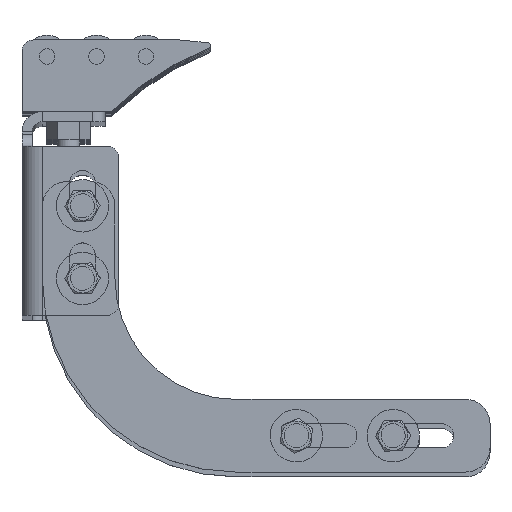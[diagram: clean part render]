
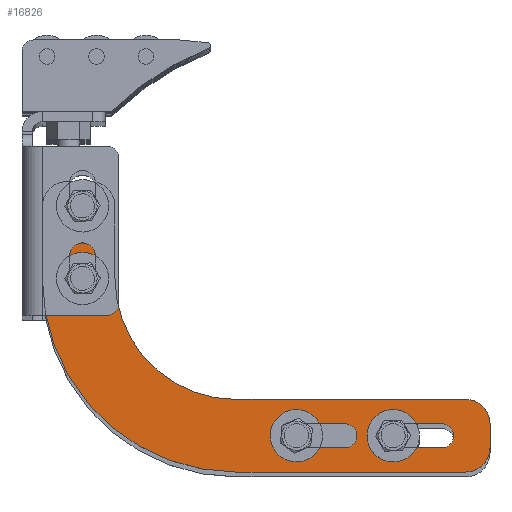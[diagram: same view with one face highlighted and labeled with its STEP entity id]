
A CAD part, top view. The second image highlights one B-rep face of the part: STEP entity #16826.
In plain terms, the highlighted planar face has unit normal (0, 0, 1) as drawn and (0, 0, -1) by its records, which use the part's own axes.
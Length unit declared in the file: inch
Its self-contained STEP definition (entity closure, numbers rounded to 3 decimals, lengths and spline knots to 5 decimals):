
#16259=DIRECTION('',(0.,-1.,0.));
#16260=VECTOR('',#16259,0.75);
#16261=CARTESIAN_POINT('',(0.,2.75,-0.25));
#16262=LINE('',#16261,#16260);
#16263=CARTESIAN_POINT('',(-0.25,2.75,-0.25));
#16264=DIRECTION('',(0.,0.,-1.));
#16265=DIRECTION('',(0.,1.,0.));
#16266=AXIS2_PLACEMENT_3D('',#16263,#16264,#16265);
#16268=DIRECTION('',(1.,0.,0.));
#16269=VECTOR('',#16268,0.25);
#16270=CARTESIAN_POINT('',(-0.5,3.,-0.25));
#16271=LINE('',#16270,#16269);
#16272=CARTESIAN_POINT('',(-0.5,2.75,-0.25));
#16273=DIRECTION('',(0.,0.,-1.));
#16274=DIRECTION('',(-1.,0.,0.));
#16275=AXIS2_PLACEMENT_3D('',#16272,#16273,#16274);
#16277=DIRECTION('',(0.,1.,0.));
#16278=VECTOR('',#16277,0.75);
#16279=CARTESIAN_POINT('',(-0.75,2.,-0.25));
#16280=LINE('',#16279,#16278);
#16281=CARTESIAN_POINT('',(-2.,2.,-0.25));
#16282=DIRECTION('',(0.,0.,1.));
#16283=DIRECTION('',(0.,-1.,0.));
#16284=AXIS2_PLACEMENT_3D('',#16281,#16282,#16283);
#16286=DIRECTION('',(1.,0.,0.));
#16287=VECTOR('',#16286,2.375);
#16288=CARTESIAN_POINT('',(-4.375,0.75,-0.25));
#16289=LINE('',#16288,#16287);
#16290=CARTESIAN_POINT('',(-4.375,0.5,-0.25));
#16291=DIRECTION('',(0.,0.,-1.));
#16292=DIRECTION('',(-1.,0.,0.));
#16293=AXIS2_PLACEMENT_3D('',#16290,#16291,#16292);
#16295=DIRECTION('',(0.,1.,0.));
#16296=VECTOR('',#16295,0.25);
#16297=CARTESIAN_POINT('',(-4.625,0.25,-0.25));
#16298=LINE('',#16297,#16296);
#16299=CARTESIAN_POINT('',(-4.375,0.25,-0.25));
#16300=DIRECTION('',(0.,0.,-1.));
#16301=DIRECTION('',(0.,-1.,0.));
#16302=AXIS2_PLACEMENT_3D('',#16299,#16300,#16301);
#16304=DIRECTION('',(-1.,0.,0.));
#16305=VECTOR('',#16304,2.375);
#16306=CARTESIAN_POINT('',(-2.,0.,-0.25));
#16307=LINE('',#16306,#16305);
#16308=CARTESIAN_POINT('',(-2.,2.,-0.25));
#16309=DIRECTION('',(0.,0.,-1.));
#16310=DIRECTION('',(1.,0.,0.));
#16311=AXIS2_PLACEMENT_3D('',#16308,#16309,#16310);
#16313=CARTESIAN_POINT('',(-0.4145,2.,-0.25));
#16314=DIRECTION('',(0.,0.,1.));
#16315=DIRECTION('',(1.,0.,0.));
#16316=AXIS2_PLACEMENT_3D('',#16313,#16314,#16315);
#16318=CARTESIAN_POINT('',(-0.4145,2.,-0.25));
#16319=DIRECTION('',(0.,0.,1.));
#16320=DIRECTION('',(-1.,0.,0.));
#16321=AXIS2_PLACEMENT_3D('',#16318,#16319,#16320);
#16323=CARTESIAN_POINT('',(-0.4145,2.75,-0.25));
#16324=DIRECTION('',(0.,0.,1.));
#16325=DIRECTION('',(1.,0.,0.));
#16326=AXIS2_PLACEMENT_3D('',#16323,#16324,#16325);
#16328=CARTESIAN_POINT('',(-0.4145,2.75,-0.25));
#16329=DIRECTION('',(0.,0.,1.));
#16330=DIRECTION('',(-1.,0.,0.));
#16331=AXIS2_PLACEMENT_3D('',#16328,#16329,#16330);
#16333=CARTESIAN_POINT('',(-2.625,0.375,-0.25));
#16334=DIRECTION('',(0.,0.,1.));
#16335=DIRECTION('',(1.,0.,0.));
#16336=AXIS2_PLACEMENT_3D('',#16333,#16334,#16335);
#16338=CARTESIAN_POINT('',(-2.625,0.375,-0.25));
#16339=DIRECTION('',(0.,0.,1.));
#16340=DIRECTION('',(0.,-1.,0.));
#16341=AXIS2_PLACEMENT_3D('',#16338,#16339,#16340);
#16343=CARTESIAN_POINT('',(-3.125,0.375,-0.25));
#16344=DIRECTION('',(0.,0.,1.));
#16345=DIRECTION('',(-1.,0.,0.));
#16346=AXIS2_PLACEMENT_3D('',#16343,#16344,#16345);
#16348=CARTESIAN_POINT('',(-3.125,0.375,-0.25));
#16349=DIRECTION('',(0.,0.,1.));
#16350=DIRECTION('',(0.,1.,0.));
#16351=AXIS2_PLACEMENT_3D('',#16348,#16349,#16350);
#16353=CARTESIAN_POINT('',(-3.625,0.375,-0.25));
#16354=DIRECTION('',(0.,0.,1.));
#16355=DIRECTION('',(1.,0.,0.));
#16356=AXIS2_PLACEMENT_3D('',#16353,#16354,#16355);
#16358=CARTESIAN_POINT('',(-3.625,0.375,-0.25));
#16359=DIRECTION('',(0.,0.,1.));
#16360=DIRECTION('',(0.,-1.,0.));
#16361=AXIS2_PLACEMENT_3D('',#16358,#16359,#16360);
#16363=CARTESIAN_POINT('',(-4.125,0.375,-0.25));
#16364=DIRECTION('',(0.,0.,1.));
#16365=DIRECTION('',(-1.,0.,0.));
#16366=AXIS2_PLACEMENT_3D('',#16363,#16364,#16365);
#16368=CARTESIAN_POINT('',(-4.125,0.375,-0.25));
#16369=DIRECTION('',(0.,0.,1.));
#16370=DIRECTION('',(0.,1.,0.));
#16371=AXIS2_PLACEMENT_3D('',#16368,#16369,#16370);
#16567=DIRECTION('',(1.,0.,0.));
#16568=VECTOR('',#16567,0.5);
#16569=CARTESIAN_POINT('',(-3.125,0.5,-0.25));
#16570=LINE('',#16569,#16568);
#16583=DIRECTION('',(-1.,0.,0.));
#16584=VECTOR('',#16583,0.5);
#16585=CARTESIAN_POINT('',(-2.625,0.25,-0.25));
#16586=LINE('',#16585,#16584);
#16595=DIRECTION('',(1.,0.,0.));
#16596=VECTOR('',#16595,0.5);
#16597=CARTESIAN_POINT('',(-4.125,0.5,-0.25));
#16598=LINE('',#16597,#16596);
#16611=DIRECTION('',(-1.,0.,0.));
#16612=VECTOR('',#16611,0.5);
#16613=CARTESIAN_POINT('',(-3.625,0.25,-0.25));
#16614=LINE('',#16613,#16612);
#16615=CARTESIAN_POINT('',(-0.51293,2.,-0.25));
#16616=CARTESIAN_POINT('',(-0.31607,2.,-0.25));
#16617=VERTEX_POINT('',#16615);
#16618=VERTEX_POINT('',#16616);
#16619=CARTESIAN_POINT('',(-4.125,0.5,-0.25));
#16620=CARTESIAN_POINT('',(-3.625,0.5,-0.25));
#16621=VERTEX_POINT('',#16619);
#16622=VERTEX_POINT('',#16620);
#16624=CARTESIAN_POINT('',(-2.,0.,-0.25));
#16626=VERTEX_POINT('',#16624);
#16628=CARTESIAN_POINT('',(-3.125,0.25,-0.25));
#16630=VERTEX_POINT('',#16628);
#16631=CARTESIAN_POINT('',(-0.75,2.75,-0.25));
#16633=VERTEX_POINT('',#16631);
#16635=CARTESIAN_POINT('',(-4.375,0.,-0.25));
#16636=CARTESIAN_POINT('',(-4.625,0.25,-0.25));
#16637=VERTEX_POINT('',#16635);
#16638=VERTEX_POINT('',#16636);
#16640=CARTESIAN_POINT('',(-0.75,2.,-0.25));
#16642=VERTEX_POINT('',#16640);
#16644=CARTESIAN_POINT('',(-2.5,0.375,-0.25));
#16646=VERTEX_POINT('',#16644);
#16658=CARTESIAN_POINT('',(-4.375,0.75,-0.25));
#16660=VERTEX_POINT('',#16658);
#16661=CARTESIAN_POINT('',(-3.125,0.5,-0.25));
#16663=VERTEX_POINT('',#16661);
#16666=CARTESIAN_POINT('',(-0.5,3.,-0.25));
#16668=VERTEX_POINT('',#16666);
#16669=CARTESIAN_POINT('',(-0.51293,2.75,-0.25));
#16670=CARTESIAN_POINT('',(-0.31607,2.75,-0.25));
#16671=VERTEX_POINT('',#16669);
#16672=VERTEX_POINT('',#16670);
#16676=CARTESIAN_POINT('',(-4.125,0.25,-0.25));
#16678=VERTEX_POINT('',#16676);
#16685=CARTESIAN_POINT('',(-4.625,0.5,-0.25));
#16686=VERTEX_POINT('',#16685);
#16687=CARTESIAN_POINT('',(-2.625,0.25,-0.25));
#16688=VERTEX_POINT('',#16687);
#16693=CARTESIAN_POINT('',(0.,2.,-0.25));
#16695=VERTEX_POINT('',#16693);
#16701=CARTESIAN_POINT('',(-4.25,0.375,-0.25));
#16702=VERTEX_POINT('',#16701);
#16707=CARTESIAN_POINT('',(-3.625,0.25,-0.25));
#16708=VERTEX_POINT('',#16707);
#16709=CARTESIAN_POINT('',(-3.5,0.375,-0.25));
#16710=VERTEX_POINT('',#16709);
#16711=CARTESIAN_POINT('',(-2.625,0.5,-0.25));
#16712=VERTEX_POINT('',#16711);
#16713=CARTESIAN_POINT('',(-0.25,3.,-0.25));
#16714=VERTEX_POINT('',#16713);
#16717=CARTESIAN_POINT('',(-2.,0.75,-0.25));
#16718=VERTEX_POINT('',#16717);
#16719=CARTESIAN_POINT('',(0.,2.75,-0.25));
#16720=VERTEX_POINT('',#16719);
#16723=CARTESIAN_POINT('',(-3.25,0.375,-0.25));
#16724=VERTEX_POINT('',#16723);
#16757=CARTESIAN_POINT('',(0.,0.,-0.25));
#16758=DIRECTION('',(0.,0.,1.));
#16759=DIRECTION('',(1.,0.,0.));
#16760=AXIS2_PLACEMENT_3D('',#16757,#16758,#16759);
#16761=PLANE('',#16760);
#16763=ORIENTED_EDGE('',*,*,#16762,.F.);
#16765=ORIENTED_EDGE('',*,*,#16764,.F.);
#16767=ORIENTED_EDGE('',*,*,#16766,.F.);
#16769=ORIENTED_EDGE('',*,*,#16768,.F.);
#16771=ORIENTED_EDGE('',*,*,#16770,.F.);
#16773=ORIENTED_EDGE('',*,*,#16772,.F.);
#16775=ORIENTED_EDGE('',*,*,#16774,.F.);
#16777=ORIENTED_EDGE('',*,*,#16776,.F.);
#16779=ORIENTED_EDGE('',*,*,#16778,.F.);
#16781=ORIENTED_EDGE('',*,*,#16780,.F.);
#16783=ORIENTED_EDGE('',*,*,#16782,.F.);
#16785=ORIENTED_EDGE('',*,*,#16784,.F.);
#16786=EDGE_LOOP('',(#16763,#16765,#16767,#16769,#16771,#16773,#16775,#16777,
#16779,#16781,#16783,#16785));
#16787=FACE_OUTER_BOUND('',#16786,.F.);
#16788=ORIENTED_EDGE('',*,*,#16738,.F.);
#16789=ORIENTED_EDGE('',*,*,#16748,.F.);
#16790=EDGE_LOOP('',(#16788,#16789));
#16791=FACE_BOUND('',#16790,.F.);
#16793=ORIENTED_EDGE('',*,*,#16792,.F.);
#16795=ORIENTED_EDGE('',*,*,#16794,.F.);
#16796=EDGE_LOOP('',(#16793,#16795));
#16797=FACE_BOUND('',#16796,.F.);
#16799=ORIENTED_EDGE('',*,*,#16798,.T.);
#16801=ORIENTED_EDGE('',*,*,#16800,.F.);
#16803=ORIENTED_EDGE('',*,*,#16802,.F.);
#16805=ORIENTED_EDGE('',*,*,#16804,.T.);
#16807=ORIENTED_EDGE('',*,*,#16806,.F.);
#16809=ORIENTED_EDGE('',*,*,#16808,.F.);
#16810=EDGE_LOOP('',(#16799,#16801,#16803,#16805,#16807,#16809));
#16811=FACE_BOUND('',#16810,.F.);
#16813=ORIENTED_EDGE('',*,*,#16812,.T.);
#16815=ORIENTED_EDGE('',*,*,#16814,.F.);
#16817=ORIENTED_EDGE('',*,*,#16816,.F.);
#16819=ORIENTED_EDGE('',*,*,#16818,.T.);
#16821=ORIENTED_EDGE('',*,*,#16820,.F.);
#16823=ORIENTED_EDGE('',*,*,#16822,.F.);
#16824=EDGE_LOOP('',(#16813,#16815,#16817,#16819,#16821,#16823));
#16825=FACE_BOUND('',#16824,.F.);
#16267=CIRCLE('',#16266,0.25);
#16276=CIRCLE('',#16275,0.25);
#16285=CIRCLE('',#16284,1.25);
#16294=CIRCLE('',#16293,0.25);
#16303=CIRCLE('',#16302,0.25);
#16312=CIRCLE('',#16311,2.);
#16317=CIRCLE('',#16316,0.09843);
#16322=CIRCLE('',#16321,0.09843);
#16327=CIRCLE('',#16326,0.09843);
#16332=CIRCLE('',#16331,0.09843);
#16337=CIRCLE('',#16336,0.125);
#16342=CIRCLE('',#16341,0.125);
#16347=CIRCLE('',#16346,0.125);
#16352=CIRCLE('',#16351,0.125);
#16357=CIRCLE('',#16356,0.125);
#16362=CIRCLE('',#16361,0.125);
#16367=CIRCLE('',#16366,0.125);
#16372=CIRCLE('',#16371,0.125);
#16738=EDGE_CURVE('',#16618,#16617,#16317,.T.);
#16748=EDGE_CURVE('',#16617,#16618,#16322,.T.);
#16762=EDGE_CURVE('',#16720,#16695,#16262,.T.);
#16764=EDGE_CURVE('',#16714,#16720,#16267,.T.);
#16766=EDGE_CURVE('',#16668,#16714,#16271,.T.);
#16768=EDGE_CURVE('',#16633,#16668,#16276,.T.);
#16770=EDGE_CURVE('',#16642,#16633,#16280,.T.);
#16772=EDGE_CURVE('',#16718,#16642,#16285,.T.);
#16774=EDGE_CURVE('',#16660,#16718,#16289,.T.);
#16776=EDGE_CURVE('',#16686,#16660,#16294,.T.);
#16778=EDGE_CURVE('',#16638,#16686,#16298,.T.);
#16780=EDGE_CURVE('',#16637,#16638,#16303,.T.);
#16782=EDGE_CURVE('',#16626,#16637,#16307,.T.);
#16784=EDGE_CURVE('',#16695,#16626,#16312,.T.);
#16792=EDGE_CURVE('',#16672,#16671,#16327,.T.);
#16794=EDGE_CURVE('',#16671,#16672,#16332,.T.);
#16798=EDGE_CURVE('',#16663,#16712,#16570,.T.);
#16800=EDGE_CURVE('',#16646,#16712,#16337,.T.);
#16802=EDGE_CURVE('',#16688,#16646,#16342,.T.);
#16804=EDGE_CURVE('',#16688,#16630,#16586,.T.);
#16806=EDGE_CURVE('',#16724,#16630,#16347,.T.);
#16808=EDGE_CURVE('',#16663,#16724,#16352,.T.);
#16812=EDGE_CURVE('',#16621,#16622,#16598,.T.);
#16814=EDGE_CURVE('',#16710,#16622,#16357,.T.);
#16816=EDGE_CURVE('',#16708,#16710,#16362,.T.);
#16818=EDGE_CURVE('',#16708,#16678,#16614,.T.);
#16820=EDGE_CURVE('',#16702,#16678,#16367,.T.);
#16822=EDGE_CURVE('',#16621,#16702,#16372,.T.);
#16826=ADVANCED_FACE('',(#16787,#16791,#16797,#16811,#16825),#16761,.F.);
